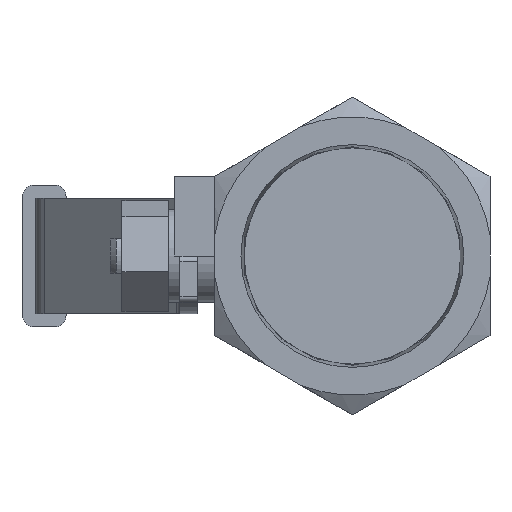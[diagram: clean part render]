
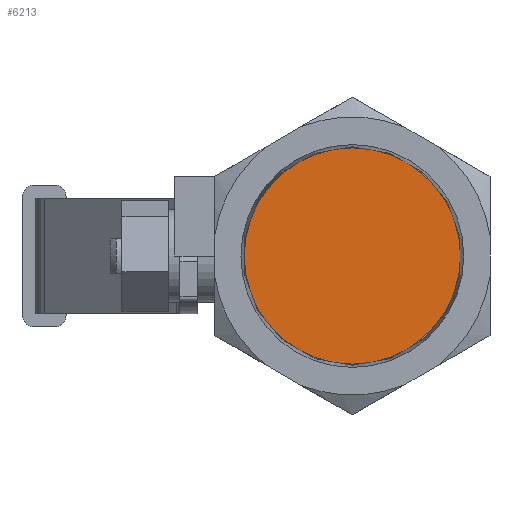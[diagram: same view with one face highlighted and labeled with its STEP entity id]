
A CAD part, left-side view. The second image highlights one B-rep face of the part: STEP entity #6213.
In plain terms, the highlighted planar face has unit normal (-1, 0, 0).
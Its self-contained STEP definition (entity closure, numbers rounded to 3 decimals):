
#153=PLANE('',#6576);
#406=FACE_OUTER_BOUND('',#741,.T.);
#741=EDGE_LOOP('',(#4082));
#2480=CIRCLE('',#6574,18.656);
#2610=VERTEX_POINT('',#8648);
#3194=EDGE_CURVE('',#2610,#2610,#2480,.T.);
#4082=ORIENTED_EDGE('',*,*,#3194,.T.);
#6213=ADVANCED_FACE('',(#406),#153,.T.);
#6574=AXIS2_PLACEMENT_3D('',#8649,#7047,#7048);
#6576=AXIS2_PLACEMENT_3D('',#8653,#7052,#7053);
#7047=DIRECTION('center_axis',(-1.,0.,0.));
#7048=DIRECTION('ref_axis',(0.,0.,1.));
#7052=DIRECTION('center_axis',(-1.,0.,0.));
#7053=DIRECTION('ref_axis',(0.,0.,1.));
#8648=CARTESIAN_POINT('',(-50.899,-8.504,-18.656));
#8649=CARTESIAN_POINT('Origin',(-50.899,-8.504,0.));
#8653=CARTESIAN_POINT('Origin',(-50.899,-8.504,0.));
